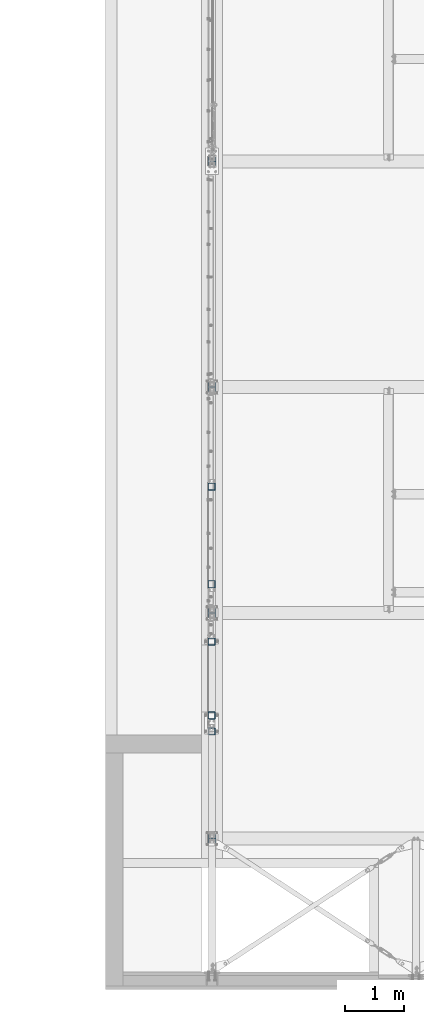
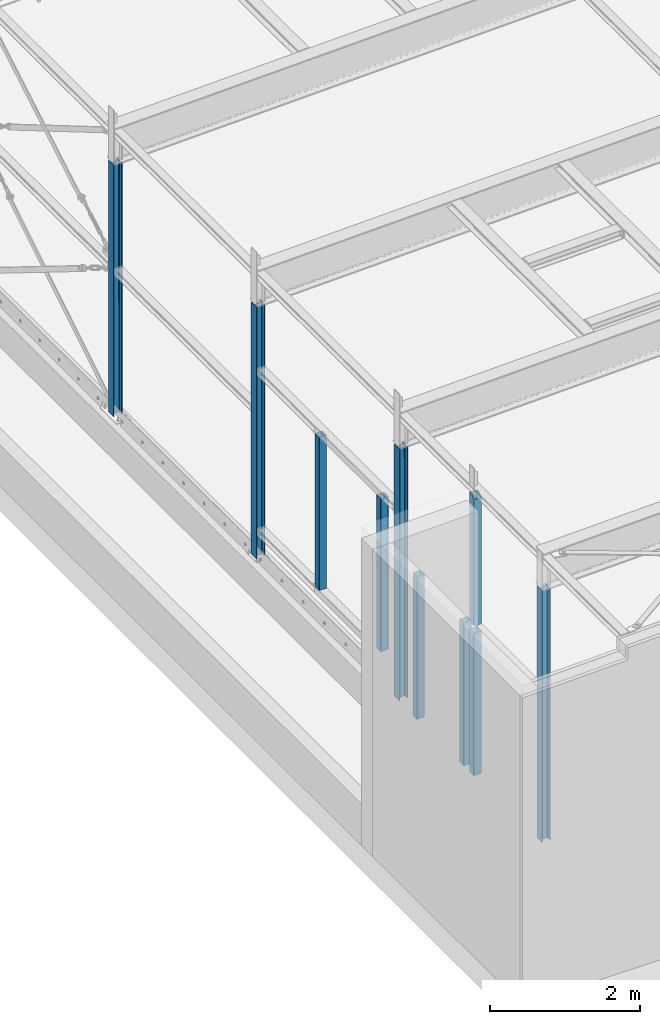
# One storey, part 1 of 476: 10 columns, 3 openings.
"""IFC2X3 building model written with IfcOpenShell, lengths in millimetres."""

from ifc_helpers import new_model, entity, si_unit, converted_unit, frame, frame_2d, origin, origin_with_axes, origin_2d, place, context, project, spatial, polyline, hollow_rectangle, circle, i_section, outline, extrude, clip, halfspace, material, element, save


model = new_model("IFC2X3")

# Units and contexts
model_context = context("Model", 3, precision=1e-09, world=origin_with_axes())
ifc_project = project(units=[si_unit("LENGTHUNIT", "METRE", prefix="MILLI"), si_unit("AREAUNIT", "SQUARE_METRE"), si_unit("VOLUMEUNIT", "CUBIC_METRE"), converted_unit("PLANEANGLEUNIT", "DEGREE", entity("IfcPlaneAngleMeasure", 0.01745329), si_unit("PLANEANGLEUNIT", "RADIAN"), dimensions=[0, 0, 0, 0, 0, 0, 0])], contexts=[model_context])

# Site, building, storey
site_placement = place(None, origin_with_axes())
site = spatial("IfcSite", under=ifc_project, at=site_placement, Name="mKR Teilneubau & Sanierung BA1 - Ostfildern", CompositionType="ELEMENT")
building_placement = place(site_placement, origin_with_axes())
building = spatial("IfcBuilding", under=site, at=building_placement, Name="Struktur 1", CompositionType="ELEMENT")
storey_placement = place(building_placement, origin_with_axes())
storey = spatial("IfcBuildingStorey", under=building, at=storey_placement, Name="Default Storey", CompositionType="ELEMENT", Elevation=0.0)

# Columns
ifc_material = material(Name="S235JR")
column_1_placement = place(None, frame((8159.108804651, -15270.316467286, 3539.999982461), z_axis=(0.0, 0.0, 1.0), x_axis=(0.0, 1.0, 0.0)))
element("IfcColumn", 1, at=column_1_placement, inside=storey, material=ifc_material, Name="-", ObjectType="-", context=model_context, shape_type="SweptSolid", body=[
    extrude(hollow_rectangle(XDim=120.0, YDim=120.0, WallThickness=4.0, InnerFilletRadius=4.0, OuterFilletRadius=8.0, at=origin_2d()), origin(), (0.0, 0.0, -1.0), 2499.999982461),
])
column_2_placement = place(None, frame((8159.108804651, -16920.316467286, 3539.999982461), z_axis=(0.0, 0.0, -1.0), x_axis=(0.0, -1.0, 0.0)))
element("IfcColumn", 2, at=column_2_placement, inside=storey, material=ifc_material, Name="-", ObjectType="-", context=model_context, shape_type="SweptSolid", body=[
    extrude(hollow_rectangle(XDim=120.0, YDim=120.0, WallThickness=4.0, InnerFilletRadius=4.0, OuterFilletRadius=8.0, at=origin_2d()), origin(), (0.0, 0.0, 1.0), 2499.999982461),
])
column_3_placement = place(None, frame((8159.108804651, -19410.674034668, 2855.0), z_axis=(0.0, 0.0, -1.0), x_axis=(0.0, -1.0, 0.0)))
element("IfcColumn", 3, at=column_3_placement, inside=storey, material=ifc_material, Name="-", ObjectType="-", context=model_context, shape_type="Clipping", body=[
    clip(extrude(hollow_rectangle(XDim=120.0, YDim=120.0, WallThickness=4.0, InnerFilletRadius=4.0, OuterFilletRadius=8.0, at=origin_2d()), origin(), (0.0, 0.0, 1.0), 2439.852813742), halfspace(frame((-19410.674034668, 8159.108804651, 2329.999), z_axis=(0.0, 0.0, -1.0), x_axis=(0.0, -1.0, 0.0)), True)),
])

# Column, openings
column_4_placement = place(None, frame((8159.108804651, -19410.674034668, 2969.000035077), z_axis=(0.0, 0.0, 1.0), x_axis=(0.0, 1.0, 0.0)))
column_4 = element("IfcColumn", 4, at=column_4_placement, inside=storey, material=ifc_material, Name="-", ObjectType="-", context=model_context, shape_type="SweptSolid", body=[
    extrude(hollow_rectangle(XDim=120.0, YDim=120.0, WallThickness=4.0, InnerFilletRadius=4.0, OuterFilletRadius=8.0, at=origin_2d()), origin(), (0.0, 0.0, 1.0), 2120.0),
])
opening_1_placement = place(column_4_placement, frame((12.792834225, 160.1, 2132.791420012), z_axis=(0.0, 1.0, 0.0), x_axis=(-0.707106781, 0.0, -0.707106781)))
element("IfcOpeningElement", 5, at=opening_1_placement, cuts=column_4, ObjectType="Opening", context=model_context, shape_type="SweptSolid", body=[
    extrude(outline(polyline([(0.0, 0.0), (121.860528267, 0.0), (121.860528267, 110.322063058), (0.0, 110.322063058), (0.0, 0.0)])), origin(), (0.0, 0.0, -1.0), 320.2),
])
opening_2_placement = place(column_4_placement, frame((55.5, 0.0, 2087.502852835), z_axis=(1.0, 0.0, 0.0), x_axis=(0.0, 1.0, 0.0)))
element("IfcOpeningElement", 6, at=opening_2_placement, cuts=column_4, ObjectType="Opening", context=model_context, shape_type="SweptSolid", body=[
    extrude(circle(Radius=7.001, at=frame_2d((25.0, 0.0), x_axis=(1.0, 0.0))), origin(), (0.0, 0.0, 1.0), 5.0),
])
opening_3_placement = place(column_4_placement, frame((55.5, 0.0, 2087.502852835), z_axis=(1.0, 0.0, 0.0), x_axis=(0.0, 1.0, 0.0)))
element("IfcOpeningElement", 7, at=opening_3_placement, cuts=column_4, ObjectType="Opening", context=model_context, shape_type="SweptSolid", body=[
    extrude(circle(Radius=7.001, at=frame_2d((-25.0, 0.0), x_axis=(1.0, 0.0))), origin(), (0.0, 0.0, 1.0), 5.0),
])

# Columns
column_5_placement = place(None, frame((8165.608764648, -17405.67387897, 403.448200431), z_axis=(0.0, 0.0, -1.0), x_axis=(0.0, 1.0, 0.0)))
element("IfcColumn", 8, at=column_5_placement, inside=storey, material=ifc_material, Name="-", ObjectType="-", context=model_context, shape_type="Clipping", body=[
    clip(clip(extrude(i_section(OverallWidth=140.0, OverallDepth=133.0, WebThickness=5.5, FlangeThickness=8.5, FilletRadius=12.0, at=origin_2d()), origin(), (0.0, 0.0, -1.0), 4667.258662), halfspace(frame((17405.67387897, -8165.608764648, -136.552799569), z_axis=(0.0, 0.0, -1.0), x_axis=(0.0, 1.0, 0.0)), True)), halfspace(frame((17405.67387897, -8297.990220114, -4001.117455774), z_axis=(0.0, 0.030041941, 0.999548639), x_axis=(1.0, 0.0, 0.0)), True)),
])
column_6_placement = place(None, frame((8165.608764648, -13585.67387897, 403.448200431), z_axis=(0.0, 0.0, -1.0), x_axis=(0.0, 1.0, 0.0)))
element("IfcColumn", 9, at=column_6_placement, inside=storey, material=ifc_material, Name="-", ObjectType="-", context=model_context, shape_type="Clipping", body=[
    clip(clip(extrude(i_section(OverallWidth=140.0, OverallDepth=133.0, WebThickness=5.5, FlangeThickness=8.5, FilletRadius=12.0, at=origin_2d()), origin(), (0.0, 0.0, -1.0), 4667.258662), halfspace(frame((13585.67387897, -8165.608764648, -136.552799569), z_axis=(0.0, 0.0, -1.0), x_axis=(0.0, 1.0, 0.0)), True)), halfspace(frame((13585.67387897, -8297.990220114, -4001.117455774), z_axis=(0.0, 0.030041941, 0.999548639), x_axis=(1.0, 0.0, 0.0)), True)),
])
column_7_placement = place(None, frame((8165.608764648, -9765.67387897, 403.448200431), z_axis=(0.0, 0.0, -1.0), x_axis=(0.0, 1.0, 0.0)))
element("IfcColumn", 10, at=column_7_placement, inside=storey, material=ifc_material, Name="-", ObjectType="-", context=model_context, shape_type="Clipping", body=[
    clip(clip(extrude(i_section(OverallWidth=140.0, OverallDepth=133.0, WebThickness=5.5, FlangeThickness=8.5, FilletRadius=12.0, at=origin_2d()), origin(), (0.0, 0.0, -1.0), 4667.258662), halfspace(frame((9765.67387897, -8165.608764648, -141.552799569), z_axis=(0.0, 0.0, -1.0), x_axis=(0.0, 1.0, 0.0)), True)), halfspace(frame((9765.67387897, -8297.990220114, -4001.117455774), z_axis=(0.0, 0.030041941, 0.999548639), x_axis=(1.0, 0.0, 0.0)), True)),
])
column_8_placement = place(None, frame((8159.108804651, -19140.674034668, 2855.0), z_axis=(0.0, 0.0, -1.0), x_axis=(0.0, -1.0, 0.0)))
element("IfcColumn", 11, at=column_8_placement, inside=storey, material=ifc_material, Name="-", ObjectType="-", context=model_context, shape_type="Clipping", body=[
    clip(extrude(hollow_rectangle(XDim=120.0, YDim=120.0, WallThickness=4.0, InnerFilletRadius=4.0, OuterFilletRadius=8.0, at=origin_2d()), origin(), (0.0, 0.0, 1.0), 2439.852813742), halfspace(frame((-19140.674034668, 8159.108804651, 2329.999), z_axis=(0.0, 0.0, -1.0), x_axis=(0.0, -1.0, 0.0)), True)),
])
column_9_placement = place(None, frame((8165.608764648, -21225.67387897, 403.448200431), z_axis=(0.0, 0.0, -1.0), x_axis=(0.0, 1.0, 0.0)))
element("IfcColumn", 12, at=column_9_placement, inside=storey, material=ifc_material, Name="-", ObjectType="-", context=model_context, shape_type="Clipping", body=[
    clip(clip(extrude(i_section(OverallWidth=140.0, OverallDepth=133.0, WebThickness=5.5, FlangeThickness=8.5, FilletRadius=12.0, at=origin_2d()), origin(), (0.0, 0.0, -1.0), 4667.258662), halfspace(frame((21225.67387897, -8165.608764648, -136.552799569), z_axis=(0.0, 0.0, -1.0), x_axis=(0.0, 1.0, 0.0)), True)), halfspace(frame((21225.67387897, -8297.990220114, -4001.117455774), z_axis=(0.0, 0.030041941, 0.999548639), x_axis=(1.0, 0.0, 0.0)), True)),
])
column_10_placement = place(None, frame((8159.108804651, -17890.672034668, 2855.0), z_axis=(0.0, 0.0, 1.0), x_axis=(0.0, 1.0, 0.0)))
element("IfcColumn", 13, at=column_10_placement, inside=storey, material=ifc_material, Name="-", ObjectType="-", context=model_context, shape_type="Clipping", body=[
    clip(extrude(hollow_rectangle(XDim=120.0, YDim=120.0, WallThickness=4.0, InnerFilletRadius=4.0, OuterFilletRadius=8.0, at=origin_2d()), origin(), (0.0, 0.0, -1.0), 2439.852813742), halfspace(frame((17890.672034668, 8159.108804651, -2329.999), z_axis=(0.0, 0.0, 1.0), x_axis=(0.0, -1.0, 0.0)), True)),
])

save(model, "model.ifc")
